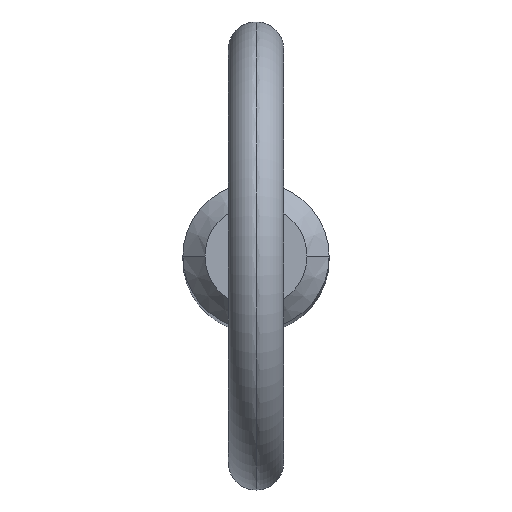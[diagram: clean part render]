
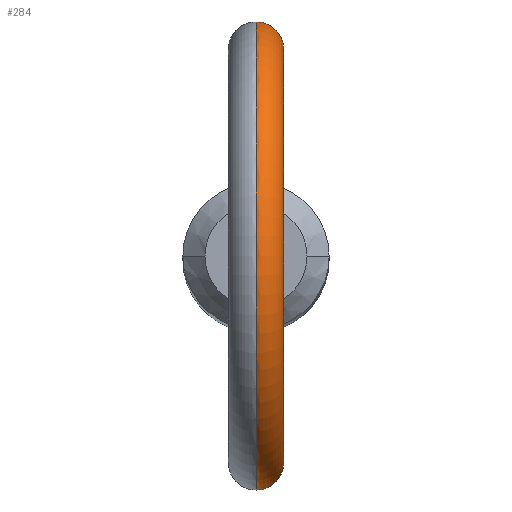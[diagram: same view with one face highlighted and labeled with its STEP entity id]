
A CAD part, top view. The second image highlights one B-rep face of the part: STEP entity #284.
In plain terms, the highlighted toroidal (fillet/blend) face has major radius 11.2 mm and minor radius 1.5 mm.
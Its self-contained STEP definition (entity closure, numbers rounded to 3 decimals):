
#5 = CARTESIAN_POINT ( 'NONE',  ( 1.499, 3.671, 95.994 ) ) ;
#14 = DIRECTION ( 'NONE',  ( 1., 0., 0. ) ) ;
#15 = CARTESIAN_POINT ( 'NONE',  ( 1.471, -3.682, 95.794 ) ) ;
#27 = EDGE_CURVE ( 'NONE', #164, #481, #67, .T. ) ;
#28 = CARTESIAN_POINT ( 'NONE',  ( 0.691, 3.905, 94.789 ) ) ;
#38 = DIRECTION ( 'NONE',  ( 1., 0., 0. ) ) ;
#48 = CARTESIAN_POINT ( 'NONE',  ( 1.499, -3.671, 95.997 ) ) ;
#51 = CARTESIAN_POINT ( 'NONE',  ( 0.205, -3.965, 94.635 ) ) ;
#67 = CIRCLE ( 'NONE', #232, 12.7 ) ;
#71 = CARTESIAN_POINT ( 'NONE',  ( 0.927, 3.858, 97.467 ) ) ;
#85 = CARTESIAN_POINT ( 'NONE',  ( 1.237, -3.77, 95.231 ) ) ;
#86 = CARTESIAN_POINT ( 'NONE',  ( 0.409, -3.948, 94.674 ) ) ;
#91 = CARTESIAN_POINT ( 'NONE',  ( 0.693, -3.905, 94.79 ) ) ;
#92 = VERTEX_POINT ( 'NONE', #498 ) ;
#101 = CARTESIAN_POINT ( 'NONE',  ( 0.782, 3.888, 94.837 ) ) ;
#102 = EDGE_CURVE ( 'NONE', #164, #471, #322, .T. ) ;
#106 = B_SPLINE_CURVE_WITH_KNOTS ( 'NONE', 3,
 ( #199, #134, #365, #402, #252, #128, #172, #132, #171, #127, #294, #479, #333, #175, #48, #15, #480, #405, #85, #328, #170, #215, #91, #86, #51, #256 ),
 .UNSPECIFIED., .F., .F.,
 ( 4, 2, 2, 2, 2, 2, 2, 2, 2, 2, 2, 2, 4 ),
 ( 0.004, 0.005, 0.005, 0.005, 0.006, 0.006, 0.007, 0.007, 0.007, 0.008, 0.008, 0.008, 0.009 ),
 .UNSPECIFIED. ) ;
#109 = CARTESIAN_POINT ( 'NONE',  ( 1.441, 3.695, 96.608 ) ) ;
#116 = CARTESIAN_POINT ( 'NONE',  ( 1.185, 3.786, 97.16 ) ) ;
#126 = AXIS2_PLACEMENT_3D ( 'NONE', #438, #14, #401 ) ;
#127 = CARTESIAN_POINT ( 'NONE',  ( 1.404, -3.708, 96.701 ) ) ;
#128 = CARTESIAN_POINT ( 'NONE',  ( 0.77, -3.894, 97.6 ) ) ;
#132 = CARTESIAN_POINT ( 'NONE',  ( 1.186, -3.786, 97.159 ) ) ;
#134 = CARTESIAN_POINT ( 'NONE',  ( 0.102, -3.965, 97.847 ) ) ;
#138 = DIRECTION ( 'NONE',  ( 1., 0., 0. ) ) ;
#150 = CARTESIAN_POINT ( 'NONE',  ( 0.411, 3.948, 97.791 ) ) ;
#157 = CARTESIAN_POINT ( 'NONE',  ( 1.47, 3.682, 95.792 ) ) ;
#158 = ORIENTED_EDGE ( 'NONE', *, *, #102, .F. ) ;
#164 = VERTEX_POINT ( 'NONE', #385 ) ;
#170 = CARTESIAN_POINT ( 'NONE',  ( 0.949, -3.851, 94.949 ) ) ;
#171 = CARTESIAN_POINT ( 'NONE',  ( 1.291, -3.75, 96.983 ) ) ;
#172 = CARTESIAN_POINT ( 'NONE',  ( 0.925, -3.858, 97.468 ) ) ;
#174 = TOROIDAL_SURFACE ( 'NONE', #126, 11.2, 1.5 ) ;
#175 = CARTESIAN_POINT ( 'NONE',  ( 1.503, -3.669, 96.099 ) ) ;
#186 = CARTESIAN_POINT ( 'NONE',  ( 1.026, 3.831, 95.013 ) ) ;
#199 = CARTESIAN_POINT ( 'NONE',  ( 0., -3.965, 97.847 ) ) ;
#202 = ORIENTED_EDGE ( 'NONE', *, *, #254, .F. ) ;
#205 = CARTESIAN_POINT ( 'NONE',  ( 0., 0., 106.7 ) ) ;
#212 = FACE_OUTER_BOUND ( 'NONE', #411, .T. ) ;
#215 = CARTESIAN_POINT ( 'NONE',  ( 0.782, -3.888, 94.837 ) ) ;
#221 = CARTESIAN_POINT ( 'NONE',  ( 0., -3.965, 94.635 ) ) ;
#230 = CARTESIAN_POINT ( 'NONE',  ( 0., 3.965, 94.635 ) ) ;
#232 = AXIS2_PLACEMENT_3D ( 'NONE', #205, #38, #292 ) ;
#233 = CARTESIAN_POINT ( 'NONE',  ( 1.447, 3.692, 95.693 ) ) ;
#244 = CARTESIAN_POINT ( 'NONE',  ( 1.291, 3.75, 96.984 ) ) ;
#252 = CARTESIAN_POINT ( 'NONE',  ( 0.498, -3.935, 97.744 ) ) ;
#254 = EDGE_CURVE ( 'NONE', #92, #481, #106, .T. ) ;
#256 = CARTESIAN_POINT ( 'NONE',  ( 0., -3.965, 94.635 ) ) ;
#271 = CARTESIAN_POINT ( 'NONE',  ( 0.41, 3.948, 94.674 ) ) ;
#275 = CARTESIAN_POINT ( 'NONE',  ( 0., 3.965, 97.847 ) ) ;
#282 = CARTESIAN_POINT ( 'NONE',  ( 1.503, 3.669, 96.098 ) ) ;
#284 = ADVANCED_FACE ( 'NONE', ( #212 ), #174, .T. ) ;
#292 = DIRECTION ( 'NONE',  ( 0., 0., -1. ) ) ;
#294 = CARTESIAN_POINT ( 'NONE',  ( 1.434, -3.697, 96.605 ) ) ;
#304 = CARTESIAN_POINT ( 'NONE',  ( 0.949, 3.851, 94.949 ) ) ;
#308 = DIRECTION ( 'NONE',  ( 0., 0., -1. ) ) ;
#322 = B_SPLINE_CURVE_WITH_KNOTS ( 'NONE', 3,
 ( #230, #495, #271, #28, #101, #304, #186, #348, #381, #233, #157, #5, #282, #358, #109, #244, #116, #71, #461, #150, #467, #275 ),
 .UNSPECIFIED., .F., .F.,
 ( 4, 2, 2, 2, 2, 2, 2, 2, 2, 2, 4 ),
 ( 0.001, 0.001, 0.002, 0.002, 0.003, 0.003, 0.003, 0.004, 0.004, 0.005, 0.006 ),
 .UNSPECIFIED. ) ;
#328 = CARTESIAN_POINT ( 'NONE',  ( 1.028, -3.83, 95.015 ) ) ;
#333 = CARTESIAN_POINT ( 'NONE',  ( 1.493, -3.673, 96.304 ) ) ;
#336 = AXIS2_PLACEMENT_3D ( 'NONE', #450, #138, #308 ) ;
#338 = CARTESIAN_POINT ( 'NONE',  ( 0., 3.965, 97.847 ) ) ;
#348 = CARTESIAN_POINT ( 'NONE',  ( 1.236, 3.77, 95.229 ) ) ;
#358 = CARTESIAN_POINT ( 'NONE',  ( 1.488, 3.675, 96.405 ) ) ;
#365 = CARTESIAN_POINT ( 'NONE',  ( 0.205, -3.961, 97.834 ) ) ;
#377 = ORIENTED_EDGE ( 'NONE', *, *, #27, .T. ) ;
#381 = CARTESIAN_POINT ( 'NONE',  ( 1.344, 3.731, 95.403 ) ) ;
#385 = CARTESIAN_POINT ( 'NONE',  ( 0., 3.965, 94.635 ) ) ;
#401 = DIRECTION ( 'NONE',  ( 0., 0., -1. ) ) ;
#402 = CARTESIAN_POINT ( 'NONE',  ( 0.404, -3.946, 97.782 ) ) ;
#405 = CARTESIAN_POINT ( 'NONE',  ( 1.346, -3.73, 95.408 ) ) ;
#411 = EDGE_LOOP ( 'NONE', ( #158, #377, #202, #445 ) ) ;
#438 = CARTESIAN_POINT ( 'NONE',  ( 0., 0., 106.7 ) ) ;
#445 = ORIENTED_EDGE ( 'NONE', *, *, #482, .F. ) ;
#450 = CARTESIAN_POINT ( 'NONE',  ( 0., 0., 106.7 ) ) ;
#461 = CARTESIAN_POINT ( 'NONE',  ( 0.769, 3.894, 97.601 ) ) ;
#467 = CARTESIAN_POINT ( 'NONE',  ( 0.206, 3.965, 97.847 ) ) ;
#471 = VERTEX_POINT ( 'NONE', #338 ) ;
#479 = CARTESIAN_POINT ( 'NONE',  ( 1.479, -3.679, 96.407 ) ) ;
#480 = CARTESIAN_POINT ( 'NONE',  ( 1.447, -3.692, 95.693 ) ) ;
#481 = VERTEX_POINT ( 'NONE', #221 ) ;
#482 = EDGE_CURVE ( 'NONE', #471, #92, #502, .T. ) ;
#495 = CARTESIAN_POINT ( 'NONE',  ( 0.204, 3.965, 94.635 ) ) ;
#498 = CARTESIAN_POINT ( 'NONE',  ( 0., -3.965, 97.847 ) ) ;
#502 = CIRCLE ( 'NONE', #336, 9.7 ) ;
